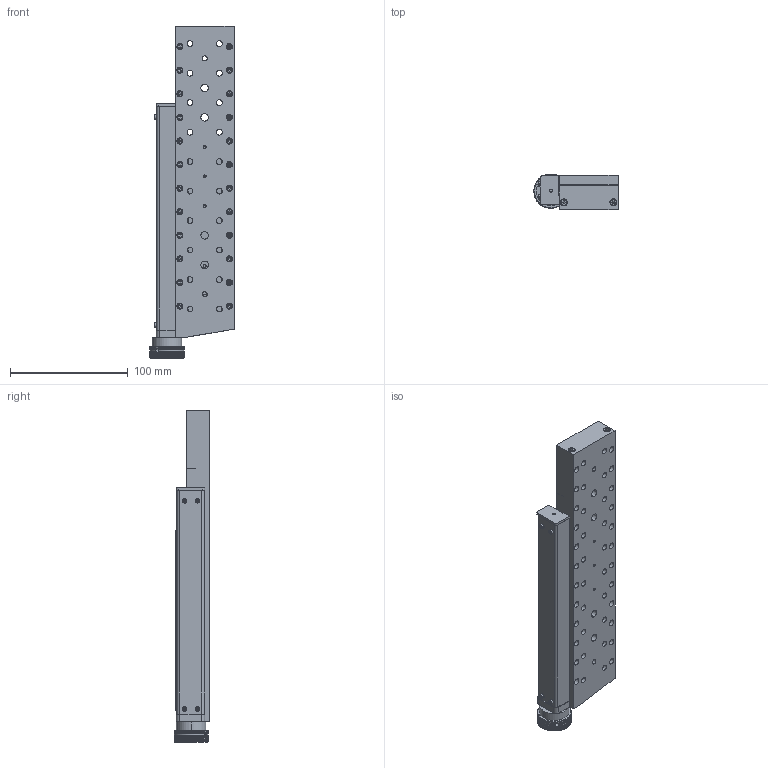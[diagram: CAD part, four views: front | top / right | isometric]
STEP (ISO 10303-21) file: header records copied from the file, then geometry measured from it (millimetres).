
FILE_DESCRIPTION (( 'STEP AP203' ), '1' );
FILE_NAME ('7T175-100.STEP', '2007-11-22T06:46:49', ( 'STANDA' ), ( '' ), 'SwSTEP 2.0', 'SolidWorks 2003240', '' );
FILE_SCHEMA (( 'CONFIG_CONTROL_DESIGN' ));
Products named in the file (1): 7T175-100
Bounding box: 71.5 x 30.5 x 281.5 mm (x, y, z)
Volume: 348069.7 mm3; surface area: 99962.4 mm2
Topology: 1 solids, 49 shells, 2352 faces, 6205 edges, 4007 vertices
Faces by surface type: plane 1224, cylinder 599, bspline 313, cone 216
Entity records: 78772 total; most frequent: CARTESIAN_POINT 22742, ORIENTED_EDGE 12190, DIRECTION 10528, EDGE_CURVE 6095, VERTEX_POINT 4007, AXIS2_PLACEMENT_3D 3561, VECTOR 3406, LINE 3406
